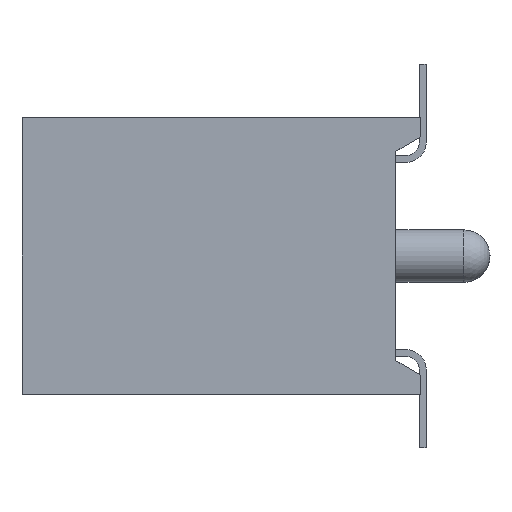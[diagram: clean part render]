
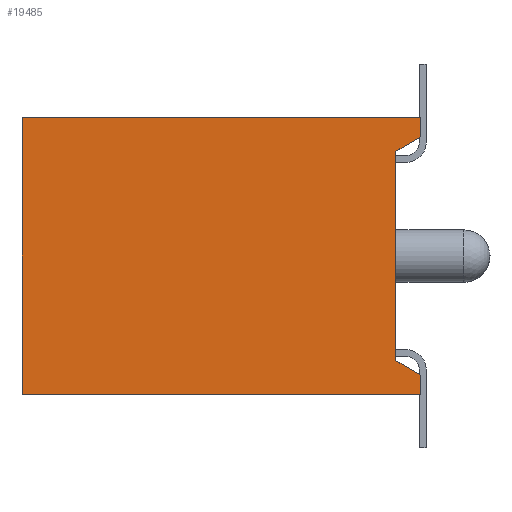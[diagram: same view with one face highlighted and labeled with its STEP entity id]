
A CAD part, left-side view. The second image highlights one B-rep face of the part: STEP entity #19485.
In plain terms, the highlighted planar face has unit normal (-1, 0, 0).
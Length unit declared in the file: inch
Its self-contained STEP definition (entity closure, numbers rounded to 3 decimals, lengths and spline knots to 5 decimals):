
#1102=ORIENTED_EDGE('',*,*,#6642,.F.);
#1103=ORIENTED_EDGE('',*,*,#6128,.T.);
#1104=ORIENTED_EDGE('',*,*,#6360,.F.);
#1105=ORIENTED_EDGE('',*,*,#6786,.F.);
#1106=ORIENTED_EDGE('',*,*,#6354,.T.);
#1107=ORIENTED_EDGE('',*,*,#6212,.T.);
#1108=ORIENTED_EDGE('',*,*,#6785,.F.);
#1109=ORIENTED_EDGE('',*,*,#6787,.F.);
#6128=EDGE_CURVE('',#9013,#9012,#10936,.T.);
#6212=EDGE_CURVE('',#9097,#9096,#11020,.T.);
#6354=EDGE_CURVE('',#9218,#9097,#11162,.T.);
#6360=EDGE_CURVE('',#9222,#9012,#11168,.T.);
#6642=EDGE_CURVE('',#9013,#9463,#11450,.T.);
#6785=EDGE_CURVE('',#9585,#9096,#11593,.T.);
#6786=EDGE_CURVE('',#9218,#9222,#11594,.T.);
#6787=EDGE_CURVE('',#9463,#9585,#11595,.T.);
#9012=VERTEX_POINT('',#26668);
#9013=VERTEX_POINT('',#26670);
#9096=VERTEX_POINT('',#26857);
#9097=VERTEX_POINT('',#26859);
#9218=VERTEX_POINT('',#27123);
#9222=VERTEX_POINT('',#27133);
#9463=VERTEX_POINT('',#27696);
#9585=VERTEX_POINT('',#28003);
#10936=LINE('',#26669,#13656);
#11020=LINE('',#26858,#13740);
#11162=LINE('',#27122,#13882);
#11168=LINE('',#27134,#13888);
#11450=LINE('',#27698,#14170);
#11593=LINE('',#28004,#14313);
#11594=LINE('',#28006,#14314);
#11595=LINE('',#28007,#14315);
#13656=VECTOR('',#21616,39.37008);
#13740=VECTOR('',#21742,39.37008);
#13882=VECTOR('',#21886,39.37008);
#13888=VECTOR('',#21894,39.37008);
#14170=VECTOR('',#22258,39.37008);
#14313=VECTOR('',#22483,39.37008);
#14314=VECTOR('',#22486,39.37008);
#14315=VECTOR('',#22487,39.37008);
#16420=EDGE_LOOP('',(#1102,#1103,#1104,#1105,#1106,#1107,#1108,#1109));
#17510=FACE_BOUND('',#16420,.T.);
#18600=PLANE('',#20481);
#19485=ADVANCED_FACE('',(#17510),#18600,.F.);
#20481=AXIS2_PLACEMENT_3D('',#28005,#22484,#22485);
#21616=DIRECTION('',(0.,0.,1.));
#21742=DIRECTION('',(0.,0.,1.));
#21886=DIRECTION('',(0.,-1.,0.));
#21894=DIRECTION('',(0.,-1.,0.));
#22258=DIRECTION('',(0.,0.866,-0.5));
#22483=DIRECTION('',(0.,-0.866,-0.5));
#22484=DIRECTION('',(1.,0.,0.));
#22485=DIRECTION('',(0.,0.,-1.));
#22486=DIRECTION('',(0.,0.,1.));
#22487=DIRECTION('',(0.,0.,-1.));
#26668=CARTESIAN_POINT('',(-1.,0.,0.1));
#26669=CARTESIAN_POINT('',(-1.,0.,-0.1));
#26670=CARTESIAN_POINT('',(-1.,0.,0.086));
#26857=CARTESIAN_POINT('',(-1.,0.,-0.086));
#26858=CARTESIAN_POINT('',(-1.,0.,-0.1));
#26859=CARTESIAN_POINT('',(-1.,0.,-0.1));
#27122=CARTESIAN_POINT('',(-1.,0.288,-0.1));
#27123=CARTESIAN_POINT('',(-1.,0.288,-0.1));
#27133=CARTESIAN_POINT('',(-1.,0.288,0.1));
#27134=CARTESIAN_POINT('',(-1.,0.288,0.1));
#27696=CARTESIAN_POINT('',(-1.,0.018,0.07561));
#27698=CARTESIAN_POINT('',(-1.,0.29654,-0.08521));
#28003=CARTESIAN_POINT('',(-1.,0.018,-0.07561));
#28004=CARTESIAN_POINT('',(-1.,0.20994,0.03521));
#28005=CARTESIAN_POINT('',(-1.,0.288,-0.1));
#28006=CARTESIAN_POINT('',(-1.,0.288,-0.1));
#28007=CARTESIAN_POINT('',(-1.,0.018,-0.1));
